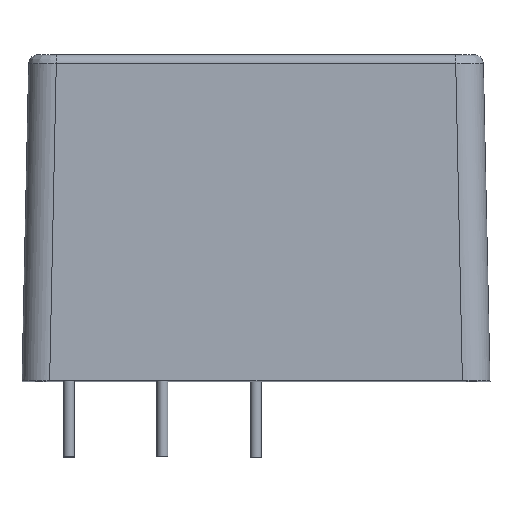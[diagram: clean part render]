
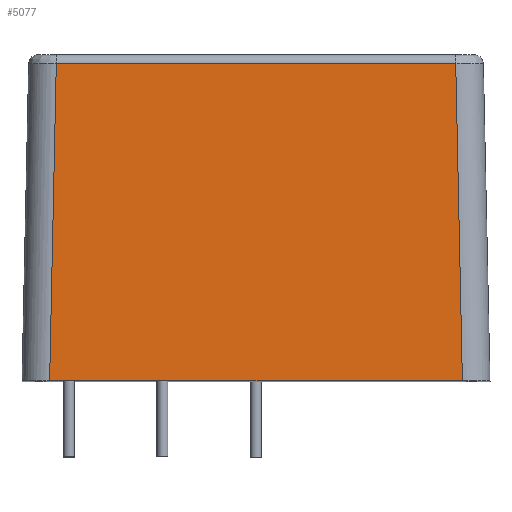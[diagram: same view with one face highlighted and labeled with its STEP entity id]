
A CAD part, top view. The second image highlights one B-rep face of the part: STEP entity #5077.
In plain terms, the highlighted planar face has unit normal (0, 0.021, 1).
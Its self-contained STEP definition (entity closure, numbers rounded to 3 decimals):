
#765 = DIRECTION ( 'NONE',  ( -0.021, -1., 0.021 ) ) ;
#816 = EDGE_CURVE ( 'NONE', #6151, #6506, #1147, .T. ) ;
#1147 = LINE ( 'NONE', #5192, #2179 ) ;
#1244 = CARTESIAN_POINT ( 'NONE',  ( -11.2, 0., 12.7 ) ) ;
#1419 = VERTEX_POINT ( 'NONE', #1244 ) ;
#1818 = AXIS2_PLACEMENT_3D ( 'NONE', #6351, #3886, #8373 ) ;
#1898 = ORIENTED_EDGE ( 'NONE', *, *, #816, .T. ) ;
#2130 = EDGE_CURVE ( 'NONE', #6151, #2651, #6630, .T. ) ;
#2179 = VECTOR ( 'NONE', #4440, 1000. ) ;
#2285 = ORIENTED_EDGE ( 'NONE', *, *, #5773, .T. ) ;
#2638 = CARTESIAN_POINT ( 'NONE',  ( 11.2, 0., 12.7 ) ) ;
#2651 = VERTEX_POINT ( 'NONE', #2638 ) ;
#3708 = CARTESIAN_POINT ( 'NONE',  ( 10.84, 17.21, 12.339 ) ) ;
#3787 = CARTESIAN_POINT ( 'NONE',  ( 11.2, 0., 12.7 ) ) ;
#3886 = DIRECTION ( 'NONE',  ( 0., 0.021, 1. ) ) ;
#3928 = FACE_OUTER_BOUND ( 'NONE', #5490, .T. ) ;
#4440 = DIRECTION ( 'NONE',  ( -1., 0., 0. ) ) ;
#4660 = VECTOR ( 'NONE', #765, 1000. ) ;
#5077 = ADVANCED_FACE ( 'NONE', ( #3928 ), #7701, .T. ) ;
#5192 = CARTESIAN_POINT ( 'NONE',  ( -14.18, 17.21, 12.339 ) ) ;
#5490 = EDGE_LOOP ( 'NONE', ( #7251, #1898, #8043, #2285 ) ) ;
#5512 = LINE ( 'NONE', #5978, #7997 ) ;
#5773 = EDGE_CURVE ( 'NONE', #1419, #2651, #5512, .T. ) ;
#5964 = CARTESIAN_POINT ( 'NONE',  ( -10.84, 17.21, 12.339 ) ) ;
#5978 = CARTESIAN_POINT ( 'NONE',  ( 0., 0., 12.7 ) ) ;
#6065 = DIRECTION ( 'NONE',  ( 1., 0., 0. ) ) ;
#6151 = VERTEX_POINT ( 'NONE', #3708 ) ;
#6351 = CARTESIAN_POINT ( 'NONE',  ( -14.18, 0., 12.7 ) ) ;
#6382 = CARTESIAN_POINT ( 'NONE',  ( 10.96, 11.474, 12.46 ) ) ;
#6506 = VERTEX_POINT ( 'NONE', #5964 ) ;
#6630 = B_SPLINE_CURVE_WITH_KNOTS ( 'NONE', 3,
 ( #7567, #6382, #7729, #3787 ),
 .UNSPECIFIED., .F., .F.,
 ( 4, 4 ),
 ( 0., 1. ),
 .UNSPECIFIED. ) ;
#7189 = LINE ( 'NONE', #8466, #4660 ) ;
#7251 = ORIENTED_EDGE ( 'NONE', *, *, #2130, .F. ) ;
#7567 = CARTESIAN_POINT ( 'NONE',  ( 10.84, 17.21, 12.339 ) ) ;
#7701 = PLANE ( 'NONE',  #1818 ) ;
#7729 = CARTESIAN_POINT ( 'NONE',  ( 11.08, 5.737, 12.58 ) ) ;
#7997 = VECTOR ( 'NONE', #6065, 1000. ) ;
#8043 = ORIENTED_EDGE ( 'NONE', *, *, #8251, .T. ) ;
#8251 = EDGE_CURVE ( 'NONE', #6506, #1419, #7189, .T. ) ;
#8373 = DIRECTION ( 'NONE',  ( 0., -1., 0.021 ) ) ;
#8466 = CARTESIAN_POINT ( 'NONE',  ( -10.84, 17.21, 12.339 ) ) ;
